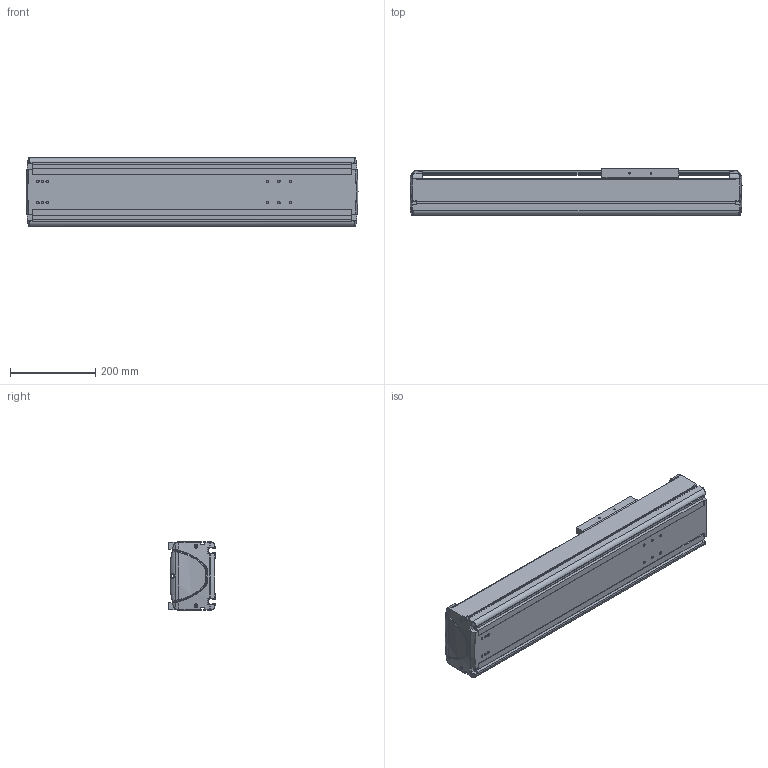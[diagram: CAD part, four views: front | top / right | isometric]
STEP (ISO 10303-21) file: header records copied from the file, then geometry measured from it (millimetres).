
FILE_DESCRIPTION((''),'2;1');
FILE_NAME('BE50G-ST-M_N-40_IGS_PRT','2017-06-18T',(' '),(''),'PRO/ENGINEER BY PARAMETRIC TECHNOLOGY CORPORATION, 2015030','PRO/ENGINEER BY PARAMETRIC TECHNOLOGY CORPORATION, 2015030','');
FILE_SCHEMA(('CONFIG_CONTROL_DESIGN'));
Length unit declared in the file: millimetre
Products named in the file (1): BE50G-ST-M_N-40_IGS_PRT
Bounding box: 779.98 x 110 x 160 mm (x, y, z)
Volume: 3754036.6 mm3; surface area: 1245538.2 mm2
Topology: 2 solids, 67 shells, 1516 faces, 3944 edges, 2513 vertices
Faces by surface type: cylinder 622, plane 605, bspline 110, torus 87, cone 52, sphere 40
Entity records: 51794 total; most frequent: CARTESIAN_POINT 14967, DIRECTION 7582, ORIENTED_EDGE 7580, EDGE_CURVE 3920, AXIS2_PLACEMENT_3D 2806, VERTEX_POINT 2511, VECTOR 1970, LINE 1970
